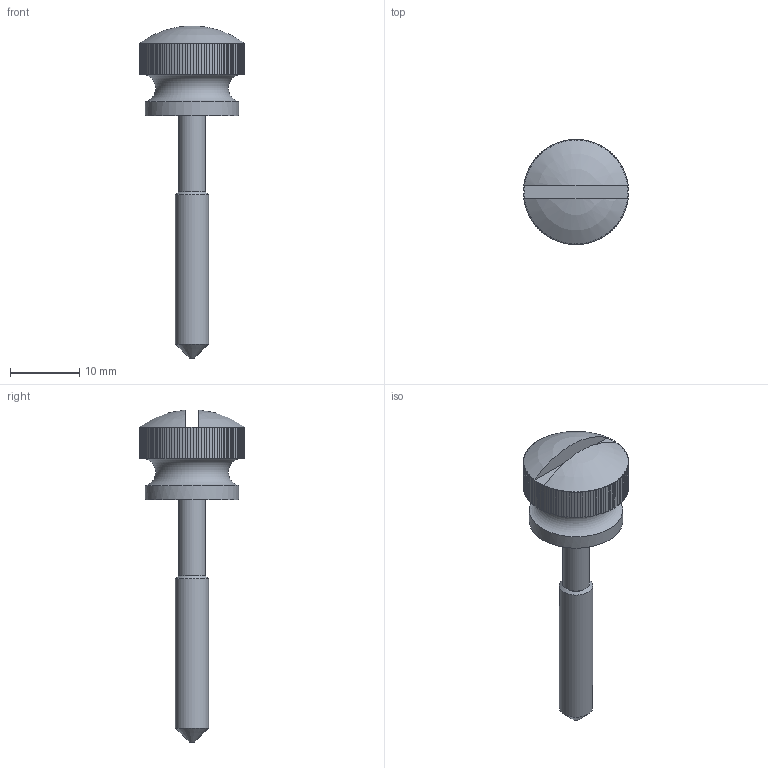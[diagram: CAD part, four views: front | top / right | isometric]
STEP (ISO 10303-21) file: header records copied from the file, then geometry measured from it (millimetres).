
FILE_DESCRIPTION(/* description */ (''),/* implementation_level */ '2;1');
FILE_NAME(/* name */ '\\SYNOLOGYNAS\web\db2\K-HSH15-M5_M\도면\M5\K-HSH15-M5-35.stp',/* time_stamp */ '2024-10-14T14:05:44+09:00',/* author */ ('user'),/* organization */ (''),/* preprocessor_version */ 'ST-DEVELOPER v15.6',/* originating_system */ 'Autodesk Inventor 2015',/* authorisation */ '');
FILE_SCHEMA (('AUTOMOTIVE_DESIGN { 1 0 10303 214 3 1 1 }'));
Length unit declared in the file: millimetre
Products named in the file (1): K-HSH15-M5-35
Bounding box: 15.19 x 15.2 x 47.96 mm (x, y, z)
Volume: 2222.8 mm3; surface area: 1458.4 mm2
Topology: 1 solids, 1 shells, 308 faces, 798 edges, 494 vertices
Faces by surface type: plane 240, cylinder 63, cone 2, sphere 2, torus 1
Full cylindrical faces by diameter (mm): 3.9 x1, 4.8 x1, 13.5 x1
Entity records: 9514 total; most frequent: CARTESIAN_POINT 2251, ORIENTED_EDGE 1580, DIRECTION 1416, EDGE_CURVE 790, AXIS2_PLACEMENT_3D 497, VERTEX_POINT 492, LINE 422, VECTOR 422
